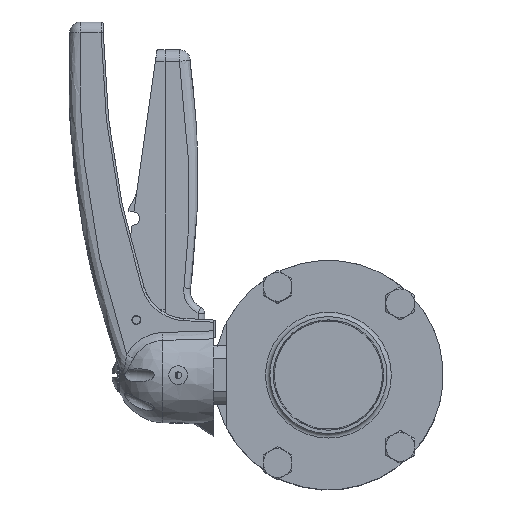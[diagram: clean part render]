
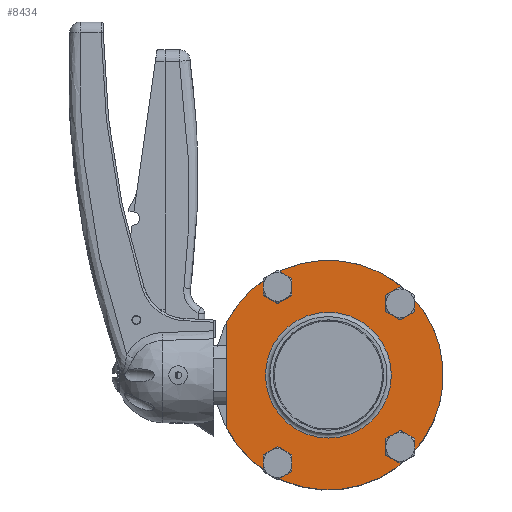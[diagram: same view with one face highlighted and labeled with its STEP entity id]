
A CAD part, top view. The second image highlights one B-rep face of the part: STEP entity #8434.
In plain terms, the highlighted planar face has unit normal (0, 0, 1) as drawn and (-1, 0, 0) by its records, which use the part's own axes.
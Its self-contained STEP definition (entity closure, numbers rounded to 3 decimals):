
#1174=LINE('',#22928,#1750);
#1750=VECTOR('',#11282,10.);
#1831=FACE_BOUND('',#2775,.T.);
#1832=FACE_BOUND('',#2776,.T.);
#1833=FACE_BOUND('',#2777,.T.);
#1834=FACE_BOUND('',#2778,.T.);
#1835=FACE_BOUND('',#2779,.T.);
#2260=FACE_OUTER_BOUND('',#2774,.T.);
#2774=EDGE_LOOP('',(#7319,#7320));
#2775=EDGE_LOOP('',(#7321));
#2776=EDGE_LOOP('',(#7322));
#2777=EDGE_LOOP('',(#7323));
#2778=EDGE_LOOP('',(#7324));
#2779=EDGE_LOOP('',(#7325));
#3130=CIRCLE('',#9320,52.);
#3131=CIRCLE('',#9321,28.5);
#3132=CIRCLE('',#9322,4.1);
#3133=CIRCLE('',#9323,4.1);
#3134=CIRCLE('',#9324,4.1);
#3135=CIRCLE('',#9325,4.1);
#3869=VERTEX_POINT('',#22926);
#3870=VERTEX_POINT('',#22927);
#3873=VERTEX_POINT('',#22936);
#3874=VERTEX_POINT('',#22938);
#3875=VERTEX_POINT('',#22940);
#3876=VERTEX_POINT('',#22942);
#3877=VERTEX_POINT('',#22944);
#5026=EDGE_CURVE('',#3869,#3870,#1174,.T.);
#5030=EDGE_CURVE('',#3870,#3869,#3130,.T.);
#5031=EDGE_CURVE('',#3873,#3873,#3131,.T.);
#5032=EDGE_CURVE('',#3874,#3874,#3132,.T.);
#5033=EDGE_CURVE('',#3875,#3875,#3133,.T.);
#5034=EDGE_CURVE('',#3876,#3876,#3134,.T.);
#5035=EDGE_CURVE('',#3877,#3877,#3135,.T.);
#7319=ORIENTED_EDGE('',*,*,#5026,.T.);
#7320=ORIENTED_EDGE('',*,*,#5030,.T.);
#7321=ORIENTED_EDGE('',*,*,#5031,.F.);
#7322=ORIENTED_EDGE('',*,*,#5032,.T.);
#7323=ORIENTED_EDGE('',*,*,#5033,.T.);
#7324=ORIENTED_EDGE('',*,*,#5034,.T.);
#7325=ORIENTED_EDGE('',*,*,#5035,.T.);
#7773=PLANE('',#9319);
#8434=ADVANCED_FACE('',(#2260,#1831,#1832,#1833,#1834,#1835),#7773,.T.);
#9319=AXIS2_PLACEMENT_3D('',#22934,#11286,#11287);
#9320=AXIS2_PLACEMENT_3D('',#22935,#11288,#11289);
#9321=AXIS2_PLACEMENT_3D('',#22937,#11290,#11291);
#9322=AXIS2_PLACEMENT_3D('',#22939,#11292,#11293);
#9323=AXIS2_PLACEMENT_3D('',#22941,#11294,#11295);
#9324=AXIS2_PLACEMENT_3D('',#22943,#11296,#11297);
#9325=AXIS2_PLACEMENT_3D('',#22945,#11298,#11299);
#11282=DIRECTION('',(0.,0.,-1.));
#11286=DIRECTION('center_axis',(-1.,0.,0.));
#11287=DIRECTION('ref_axis',(0.,0.,1.));
#11288=DIRECTION('center_axis',(-1.,0.,0.));
#11289=DIRECTION('ref_axis',(0.,0.,1.));
#11290=DIRECTION('center_axis',(-1.,0.,0.));
#11291=DIRECTION('ref_axis',(0.,0.,1.));
#11292=DIRECTION('center_axis',(1.,0.,0.));
#11293=DIRECTION('ref_axis',(0.,0.,1.));
#11294=DIRECTION('center_axis',(1.,0.,0.));
#11295=DIRECTION('ref_axis',(0.,0.,1.));
#11296=DIRECTION('center_axis',(1.,0.,0.));
#11297=DIRECTION('ref_axis',(0.,0.,1.));
#11298=DIRECTION('center_axis',(1.,0.,0.));
#11299=DIRECTION('ref_axis',(0.,0.,1.));
#22926=CARTESIAN_POINT('',(-10.,46.,24.249));
#22927=CARTESIAN_POINT('',(-10.,46.,-24.249));
#22928=CARTESIAN_POINT('',(-10.,46.,12.124));
#22934=CARTESIAN_POINT('Origin',(-10.,-28.5,0.));
#22935=CARTESIAN_POINT('Origin',(-10.,0.,
0.));
#22936=CARTESIAN_POINT('',(-10.,0.,-28.5));
#22937=CARTESIAN_POINT('Origin',(-10.,0.,
0.));
#22938=CARTESIAN_POINT('',(-10.,-32.527,-36.627));
#22939=CARTESIAN_POINT('Origin',(-10.,-32.527,-32.527));
#22940=CARTESIAN_POINT('',(-10.,23.,35.737));
#22941=CARTESIAN_POINT('Origin',(-10.,23.,39.837));
#22942=CARTESIAN_POINT('',(-10.,23.,-43.937));
#22943=CARTESIAN_POINT('Origin',(-10.,23.,-39.837));
#22944=CARTESIAN_POINT('',(-10.,-32.527,28.427));
#22945=CARTESIAN_POINT('Origin',(-10.,-32.527,32.527));
